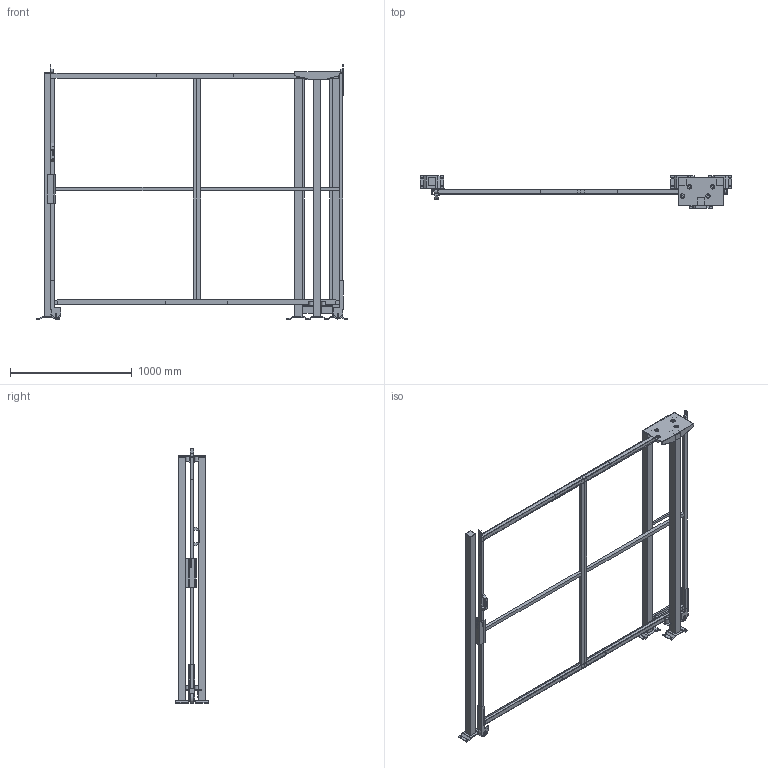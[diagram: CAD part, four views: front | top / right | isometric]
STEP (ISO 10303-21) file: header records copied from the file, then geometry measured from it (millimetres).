
FILE_DESCRIPTION(/* description */ (''),/* implementation_level */ '2;1');
FILE_NAME(/* name */ 'C:\SafeGuarding\ELABORATI\KLADKA_2025-03-19-10-37-01.stp',/* time_stamp */ '2025-03-19T10:37:02+01:00',/* author */ ('admin'),/* organization */ (''),/* preprocessor_version */ 'ST-DEVELOPER v18.1',/* originating_system */ 'AutoCAD Mechanical',/* authorisation */ '');
FILE_SCHEMA (('AUTOMOTIVE_DESIGN { 1 0 10303 214 3 1 1 }'));
Length unit declared in the file: millimetre
Products named in the file (4): Product; R_VFPA.REPE30.12001900; R_VFPA.REPE20.02501900; P_VFMA.V260SDU.2020
Assembly tree (7 placements, depth 2):
  Product
    R_VFPA.REPE30.12001900  x2
    R_VFPA.REPE20.02501900
    P_VFMA.V260SDU.2020  x4
Bounding box: 2562.02 x 264.1 x 2090.02 mm (x, y, z)
Volume: 47200054.2 mm3; surface area: 6424003.9 mm2
Topology: 61 solids, 72 shells, 555 faces, 1713 edges, 1728 vertices
Faces by surface type: plane 503, cylinder 50, sphere 2
Full cylindrical faces by diameter (mm): 9 x4, 11 x16, 13 x4, 30 x6, 36 x8, 80 x2
Entity records: 14653 total; most frequent: CARTESIAN_POINT 3069, DIRECTION 2237, ORIENTED_EDGE 2082, EDGE_CURVE 1090, LINE 1057, VECTOR 1057, VERTEX_POINT 766, AXIS2_PLACEMENT_3D 590
